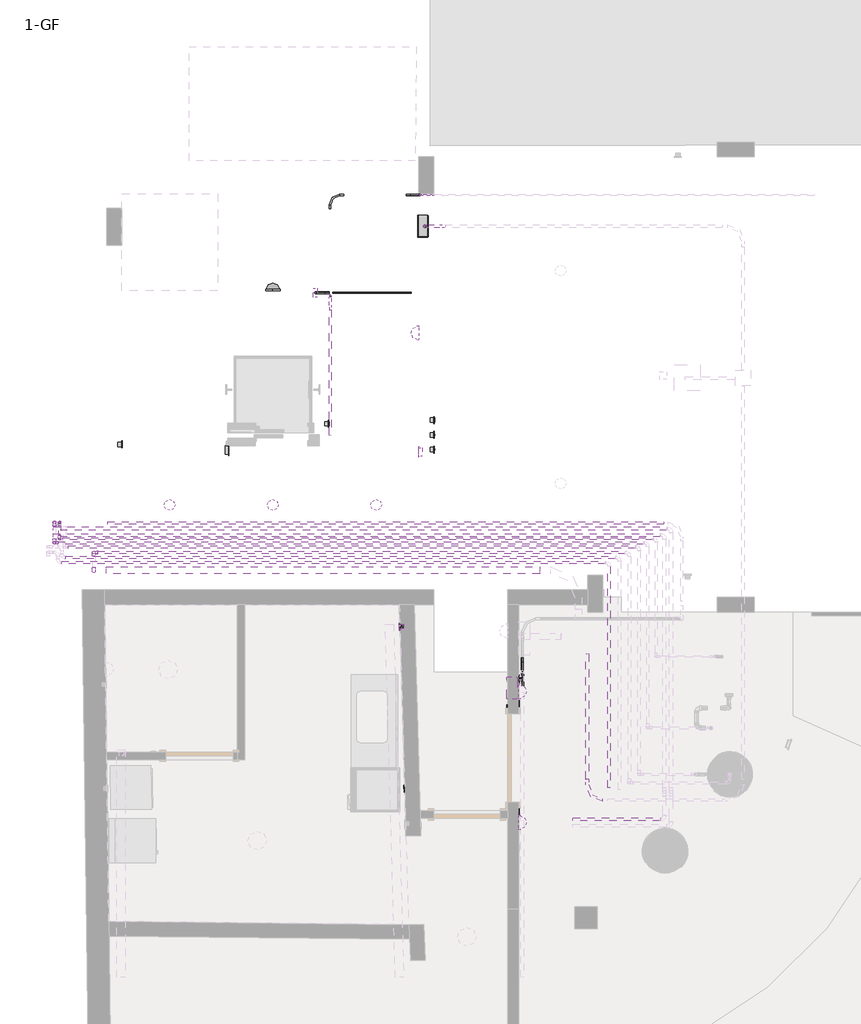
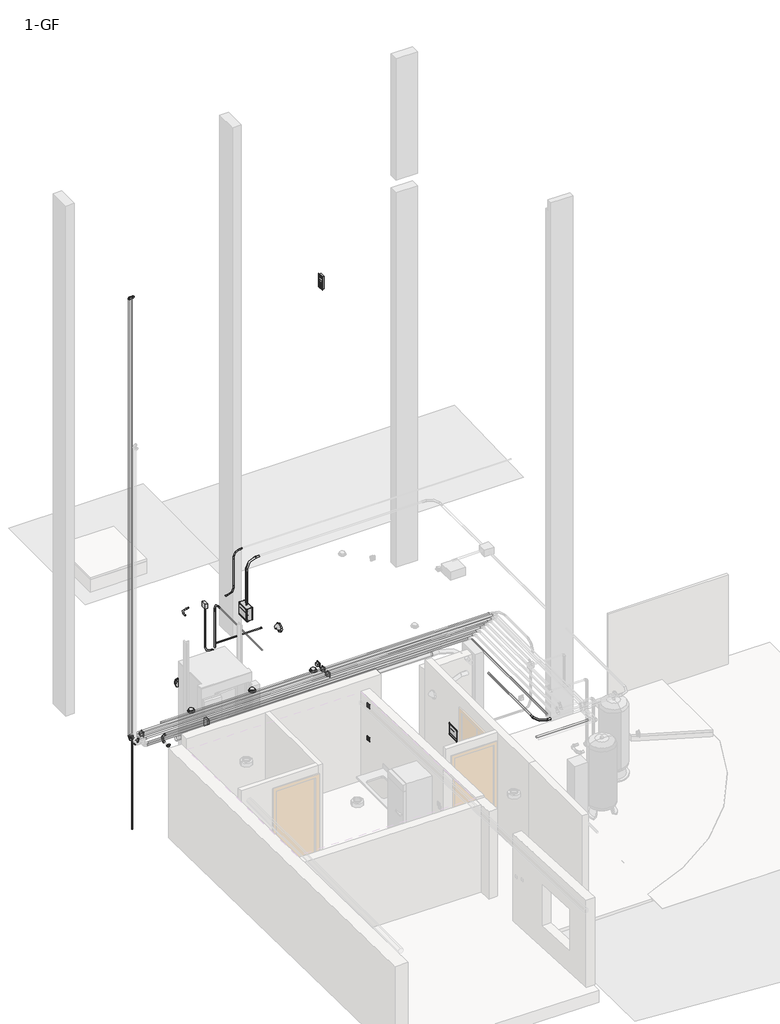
# One storey, part 3 of 5: 16 pipe segments, 10 pipe fittings, 9 cable carrier fittings, 9 cable carrier segments, 7 light fixtures, 7 proxies, 7 switching devices, 2 electric appliances.
"""IFC4 building model written with IfcOpenShell, lengths in millimetres."""

from ifc_helpers import new_model, si_unit, point, frame, frame_2d, origin, place, context, project, spatial, circle_curve, trimmed, segment, composite_curve, outline, extrude, transform, mapped, element, save
from components import distribution_board_12m_eee04b7b, m_telephone_terminal_board_lcp_f1e4d104, wall_mounted_socket_ups_wall_mounted_socket_ups_4524048d, m_conduit_elbow_steel_standard_5c2c710b, m_conduit_elbow_steel_standard_da78c8d7, m_conduit_elbow_steel_standard_971282f7, m_conduit_elbow_steel_standard_eedba290, m_conduit_elbow_without_fittings_emt_standard_0e6a189b, m_conduit_elbow_without_fittings_emt_standard_770008fc, m_conduit_junction_box_tee_aluminum_standard_c91b5ff9, communication_device_4de170aa, m_recessed_lamp_round_led_e6f06c98, m_recessed_lamp_round_led_ae0475c0, street_light_07_uk_wall_mounted_68d1d246, street_light_07_uk_wall_mounted_de2312fa, m_bend_pvc_sch_40_dwv_standard_b153bf5a, m_bend_pvc_sch_40_dwv_standard_be9000f5, m_bend_pvc_sch_40_dwv_standard_81456afd, m_tee_reducing_sanitary_pvc_sch_40_dwv_standard_7acfb5fe, switching_device_8f59fbb7, switching_device_ab05ab5c

model = new_model("IFC4")

# Units and contexts
model_context = context("Model", 3, world=origin())
ifc_project = project(units=[si_unit("LENGTHUNIT", "METRE", prefix="MILLI")], contexts=[model_context])

# Site, building, storey
site = spatial("IfcSite", under=ifc_project)
building = spatial("IfcBuilding", under=site)
storey = spatial("IfcBuildingStorey", under=building, Name="1-GF", Elevation=580.0)

# Proxies
placement = place(None, origin())
distribution_board_12m_shape = distribution_board_12m_eee04b7b(model_context)
element("IfcBuildingElementProxy", 1, Name="Distribution Board : 12M", ObjectType="Distribution Board : 12M", at=placement, inside=storey, context=model_context, shape_type="MappedRepresentation", body=[
    mapped(distribution_board_12m_shape, transform((502.5234079, 1804.4560655, 1780.0), x_axis=(0.0, -1.0, 0.0), y_axis=(1.0, 0.0, 0.0), z_axis=(0.0, 0.0, 1.0))),
])
element("IfcBuildingElementProxy", 2, Name="Distribution Board : 12M", ObjectType="Distribution Board : 12M", at=placement, inside=storey, context=model_context, shape_type="MappedRepresentation", body=[
    mapped(distribution_board_12m_shape, transform((-704.9765921, 8061.9560655, 1330.0), x_axis=(0.0, -1.0, 0.0), y_axis=(1.0, 0.0, 0.0), z_axis=(0.0, 0.0, 1.0))),
])
m_telephone_terminal_board_lcp_shape = m_telephone_terminal_board_lcp_f1e4d104(model_context)
element("IfcBuildingElementProxy", 3, Name="M_Telephone Terminal Board : LCP", ObjectType="M_Telephone Terminal Board : LCP", at=placement, inside=storey, context=model_context, shape_type="MappedRepresentation", body=[
    mapped(m_telephone_terminal_board_lcp_shape, transform((522.5234079, 1925.030978, 1780.0), x_axis=(0.0, 1.0, 0.0), y_axis=(0.0, 0.0, 1.0), z_axis=(1.0, 0.0, 0.0))),
])
wall_mounted_socket_ups_wall_mounted_socket_ups_shape = wall_mounted_socket_ups_wall_mounted_socket_ups_4524048d(model_context)
element("IfcBuildingElementProxy", 4, Name="WALL MOUNTED SOCKET : WALL MOUNTED SOCKET", ObjectType="WALL MOUNTED SOCKET : WALL MOUNTED SOCKET", at=placement, inside=storey, context=model_context, shape_type="MappedRepresentation", body=[
    mapped(wall_mounted_socket_ups_wall_mounted_socket_ups_shape, transform((-1085.3709249, 2635.426215, 1780.0), x_axis=(0.028460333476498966, -0.9995949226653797, 0.0), y_axis=(0.0, 0.0, 1.0), z_axis=(-0.9995949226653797, -0.028460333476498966, 0.0))),
])
element("IfcBuildingElementProxy", 5, Name="WALL MOUNTED SOCKET : WALL MOUNTED SOCKET", ObjectType="WALL MOUNTED SOCKET : WALL MOUNTED SOCKET", at=placement, inside=storey, context=model_context, shape_type="MappedRepresentation", body=[
    mapped(wall_mounted_socket_ups_wall_mounted_socket_ups_shape, transform((522.5234079, 1594.4560655, 1030.0), x_axis=(0.0, 1.0, 0.0), y_axis=(0.0, 0.0, 1.0), z_axis=(1.0, 0.0, 0.0))),
])
element("IfcBuildingElementProxy", 6, Name="WALL MOUNTED SOCKET : WALL MOUNTED SOCKET", ObjectType="WALL MOUNTED SOCKET : WALL MOUNTED SOCKET", at=placement, inside=storey, context=model_context, shape_type="MappedRepresentation", body=[
    mapped(wall_mounted_socket_ups_wall_mounted_socket_ups_shape, transform((-1022.8077223, 438.0570361, 1030.0), x_axis=(0.028460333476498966, -0.9995949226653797, 0.0), y_axis=(0.0, 0.0, 1.0), z_axis=(-0.9995949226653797, -0.028460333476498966, 0.0))),
])
element("IfcBuildingElementProxy", 7, Name="WALL MOUNTED SOCKET : WALL MOUNTED SOCKET", ObjectType="WALL MOUNTED SOCKET : WALL MOUNTED SOCKET", at=placement, inside=storey, context=model_context, shape_type="MappedRepresentation", body=[
    mapped(wall_mounted_socket_ups_wall_mounted_socket_ups_shape, transform((-1085.3709249, 2635.426215, 2580.0), x_axis=(0.028460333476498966, -0.9995949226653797, 0.0), y_axis=(0.0, 0.0, 1.0), z_axis=(-0.9995949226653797, -0.028460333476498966, 0.0))),
])

# Cable carrier fittings
m_conduit_elbow_steel_standard_shape = m_conduit_elbow_steel_standard_5c2c710b(model_context)
element("IfcCableCarrierFitting", 8, ObjectType="M_Conduit Elbow - Steel : Standard", at=placement, inside=storey, context=model_context, shape_type="MappedRepresentation", body=[
    mapped(m_conduit_elbow_steel_standard_shape, transform((-2232.4765921, 7159.7000558, 1530.0), x_axis=(0.0, 0.0, -1.0), y_axis=(1.0, 0.0, 0.0), z_axis=(0.0, -1.0, 0.0))),
])
element("IfcCableCarrierFitting", 9, ObjectType="M_Conduit Elbow - Steel : Standard", at=placement, inside=storey, context=model_context, shape_type="MappedRepresentation", body=[
    mapped(m_conduit_elbow_steel_standard_shape, transform((-2033.5640921, 8484.4560655, 1668.2898915), x_axis=(-0.9999999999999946, 0.0, -1.0475818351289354e-07), y_axis=(0.0, -0.9999999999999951, 1.0085922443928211e-07), z_axis=(-1.0475818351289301e-07, 1.0085922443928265e-07, 0.9999999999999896))),
])
m_conduit_elbow_steel_standard_2_shape = m_conduit_elbow_steel_standard_da78c8d7(model_context)
element("IfcCableCarrierFitting", 10, ObjectType="M_Conduit Elbow - Steel : Standard", at=placement, inside=storey, context=model_context, shape_type="MappedRepresentation", body=[
    mapped(m_conduit_elbow_steel_standard_2_shape, transform((-2028.5640921, 7120.5435655, 2682.4571376), x_axis=(0.0, 0.0, 1.0), y_axis=(0.0, -1.0, 0.0), z_axis=(1.0, 0.0, 0.0))),
])
m_conduit_elbow_steel_standard_3_shape = m_conduit_elbow_steel_standard_971282f7(model_context)
element("IfcCableCarrierFitting", 11, ObjectType="M_Conduit Elbow - Steel : Standard", at=placement, inside=storey, context=model_context, shape_type="MappedRepresentation", body=[
    mapped(m_conduit_elbow_steel_standard_3_shape, transform((-808.6146294, 8484.4560654, 2682.4678157), x_axis=(-0.999999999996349, 0.0, -2.7022281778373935e-06), y_axis=(2.7022281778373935e-06, 0.0, -0.999999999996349), z_axis=(0.0, -1.0, 0.0))),
])
m_conduit_elbow_steel_standard_4_shape = m_conduit_elbow_steel_standard_eedba290(model_context)
element("IfcCableCarrierFitting", 12, ObjectType="M_Conduit Elbow - Steel : Standard", at=placement, inside=storey, context=model_context, shape_type="MappedRepresentation", body=[
    mapped(m_conduit_elbow_steel_standard_4_shape, transform((-808.6146294, 8484.4560654, 1668.2900198), x_axis=(0.0, 0.0, -1.0), y_axis=(-1.0, 0.0, 0.0), z_axis=(0.0, 1.0, 0.0))),
])
m_conduit_elbow_without_fittings_emt_standard_shape = m_conduit_elbow_without_fittings_emt_standard_0e6a189b(model_context)
element("IfcCableCarrierFitting", 13, ObjectType="M_Conduit Elbow - without Fittings - EMT : Standard", at=placement, inside=storey, context=model_context, shape_type="MappedRepresentation", body=[
    mapped(m_conduit_elbow_without_fittings_emt_standard_shape, transform((1450.9897451, 287.2055615, 2703.1), x_axis=(0.0, -1.0, 0.0), y_axis=(1.0, 0.0, 0.0), z_axis=(0.0, 0.0, 1.0))),
])
element("IfcCableCarrierFitting", 14, ObjectType="M_Conduit Elbow - without Fittings - EMT : Standard", at=placement, inside=storey, context=model_context, shape_type="MappedRepresentation", body=[
    mapped(m_conduit_elbow_without_fittings_emt_standard_shape, transform((-752.4765921, 8061.6620874, 2703.1), x_axis=(-1.0, 0.0, 0.0), y_axis=(0.0, 0.0, -1.0), z_axis=(0.0, -1.0, 0.0))),
])
m_conduit_elbow_without_fittings_emt_standard_2_shape = m_conduit_elbow_without_fittings_emt_standard_770008fc(model_context)
element("IfcCableCarrierFitting", 15, ObjectType="M_Conduit Elbow - without Fittings - EMT : Standard", at=placement, inside=storey, context=model_context, shape_type="MappedRepresentation", body=[
    mapped(m_conduit_elbow_without_fittings_emt_standard_2_shape, transform((572.5468157, 1950.6, 1145.0), x_axis=(0.0, 0.0, -1.0), y_axis=(0.0, 1.0, 0.0), z_axis=(1.0, 0.0, 0.0))),
])
m_conduit_junction_box_tee_aluminum_standard_shape = m_conduit_junction_box_tee_aluminum_standard_c91b5ff9(model_context)
element("IfcCableCarrierFitting", 16, ObjectType="M_Conduit Junction Box - Tee - Aluminum : Standard", at=placement, inside=storey, context=model_context, shape_type="MappedRepresentation", body=[
    mapped(m_conduit_junction_box_tee_aluminum_standard_shape, transform((-2232.4765921, 7159.7000558, 2682.3951846), x_axis=(0.0, 0.0, 1.0), y_axis=(0.0, -1.0, 0.0), z_axis=(1.0, 0.0, 0.0))),
])

# Cable carrier segments
element("IfcCableCarrierSegment", 17, ObjectType="Electrical Metallic Tubing (EMT)", at=placement, inside=storey, context=model_context, shape_type="SweptSolid", body=[
    extrude(outline(composite_curve([segment(trimmed(circle_curve(frame_2d((3399.4560655, 2703.05)), 44.45), [point((3443.9060655, 2703.05))], [point((3399.4560655, 2658.6))], False, "CARTESIAN"), True, "CONTINUOUS"), segment(trimmed(circle_curve(frame_2d((3399.4560655, 2703.05)), 44.45), [point((3399.4560655, 2658.6))], [point((3355.0060655, 2703.05))], False, "CARTESIAN"), True, "CONTINUOUS"), segment(trimmed(circle_curve(frame_2d((3399.4560655, 2703.05)), 44.45), [point((3355.0060655, 2703.05))], [point((3399.4560655, 2747.5))], False, "CARTESIAN"), True, "CONTINUOUS"), segment(trimmed(circle_curve(frame_2d((3399.4560655, 2703.05)), 44.45), [point((3399.4560655, 2747.5))], [point((3443.9060655, 2703.05))], False, "CARTESIAN"), True, "CONTINUOUS")], self_intersect=False)), frame((-5067.4765921, 0.0, 0.0), z_axis=(1.0, 0.0, 0.0), x_axis=(0.0, 1.0, 0.0)), (0.0, 0.0, 1.0), 5872.95),
])
element("IfcCableCarrierSegment", 18, ObjectType="Electrical Metallic Tubing (EMT)", at=placement, inside=storey, context=model_context, shape_type="SweptSolid", body=[
    extrude(outline(composite_curve([segment(trimmed(circle_curve(frame_2d((2703.1, 1450.9897451)), 19.175), [point((2703.1, 1470.1647451))], [point((2722.275, 1450.9897451))], False, "CARTESIAN"), True, "CONTINUOUS"), segment(trimmed(circle_curve(frame_2d((2703.1, 1450.9897451)), 19.175), [point((2722.275, 1450.9897451))], [point((2703.1, 1431.8147451))], False, "CARTESIAN"), True, "CONTINUOUS"), segment(trimmed(circle_curve(frame_2d((2703.1, 1450.9897451)), 19.175), [point((2703.1, 1431.8147451))], [point((2683.925, 1450.9897451))], False, "CARTESIAN"), True, "CONTINUOUS"), segment(trimmed(circle_curve(frame_2d((2703.1, 1450.9897451)), 19.175), [point((2683.925, 1450.9897451))], [point((2703.1, 1470.1647451))], False, "CARTESIAN"), True, "CONTINUOUS")], self_intersect=False)), frame((0.0, 566.7355615, 0.0), z_axis=(0.0, 1.0, 0.0), x_axis=(0.0, 0.0, 1.0)), (0.0, 0.0, 1.0), 1700.3996531),
])
element("IfcCableCarrierSegment", 19, ObjectType="Electrical Metallic Tubing (EMT)", at=placement, inside=storey, context=model_context, shape_type="SweptSolid", body=[
    extrude(outline(composite_curve([segment(trimmed(circle_curve(frame_2d((-752.4765921, 8061.6620874)), 19.175), [point((-733.3015921, 8061.6620874))], [point((-752.4765921, 8042.4870874))], False, "CARTESIAN"), True, "CONTINUOUS"), segment(trimmed(circle_curve(frame_2d((-752.4765921, 8061.6620874)), 19.175), [point((-752.4765921, 8042.4870874))], [point((-771.6515921, 8061.6620874))], False, "CARTESIAN"), True, "CONTINUOUS"), segment(trimmed(circle_curve(frame_2d((-752.4765921, 8061.6620874)), 19.175), [point((-771.6515921, 8061.6620874))], [point((-752.4765921, 8080.8370874))], False, "CARTESIAN"), True, "CONTINUOUS"), segment(trimmed(circle_curve(frame_2d((-752.4765921, 8061.6620874)), 19.175), [point((-752.4765921, 8080.8370874))], [point((-733.3015921, 8061.6620874))], False, "CARTESIAN"), True, "CONTINUOUS")], self_intersect=False)), frame((0.0, 0.0, 1593.1), z_axis=(0.0, 0.0, 1.0), x_axis=(1.0, 0.0, 0.0)), (0.0, 0.0, 1.0), 830.47),
])
element("IfcCableCarrierSegment", 20, ObjectType="Electrical Metallic Tubing (EMT)", at=placement, inside=storey, context=model_context, shape_type="SweptSolid", body=[
    extrude(outline(composite_curve([segment(trimmed(circle_curve(frame_2d((0.0, -8.965)), 8.965), [point((-8.965, -8.965))], [point((0.0, 0.0))], False, "CARTESIAN"), True, "CONTINUOUS"), segment(trimmed(circle_curve(frame_2d((0.0, -8.965)), 8.965), [point((0.0, 0.0))], [point((8.965, -8.965))], False, "CARTESIAN"), True, "CONTINUOUS"), segment(trimmed(circle_curve(frame_2d((0.0, -8.965)), 8.965), [point((8.965, -8.965))], [point((0.0, -17.93))], False, "CARTESIAN"), True, "CONTINUOUS"), segment(trimmed(circle_curve(frame_2d((0.0, -8.965)), 8.965), [point((0.0, -17.93))], [point((-8.965, -8.965))], False, "CARTESIAN"), True, "CONTINUOUS")], self_intersect=False)), frame((-1997.1784156, 7159.7000558, 1662.0231875), z_axis=(0.9999999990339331, 0.0, 4.395604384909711e-05), x_axis=(0.0, -1.0, 0.0)), (0.0, 0.0, 1.0), 1064.9848601),
])
element("IfcCableCarrierSegment", 21, ObjectType="Low Current", at=placement, inside=storey, context=model_context, shape_type="SweptSolid", body=[
    extrude(outline(composite_curve([segment(trimmed(circle_curve(frame_2d((4039.2572999, 2710.0)), 14.77), [point((4054.0272999, 2710.0))], [point((4039.2572999, 2695.23))], False, "CARTESIAN"), True, "CONTINUOUS"), segment(trimmed(circle_curve(frame_2d((4039.2572999, 2710.0)), 14.77), [point((4039.2572999, 2695.23))], [point((4024.4872999, 2710.0))], False, "CARTESIAN"), True, "CONTINUOUS"), segment(trimmed(circle_curve(frame_2d((4039.2572999, 2710.0)), 14.77), [point((4024.4872999, 2710.0))], [point((4039.2572999, 2724.77))], False, "CARTESIAN"), True, "CONTINUOUS"), segment(trimmed(circle_curve(frame_2d((4039.2572999, 2710.0)), 14.77), [point((4039.2572999, 2724.77))], [point((4054.0272999, 2710.0))], False, "CARTESIAN"), True, "CONTINUOUS")], self_intersect=False)), frame((-5047.4765921, 0.0, 0.0), z_axis=(1.0, 0.0, 0.0), x_axis=(0.0, 1.0, 0.0)), (0.0, 0.0, 1.0), 7538.7),
])
element("IfcCableCarrierSegment", 22, ObjectType="Low Current", at=placement, inside=storey, context=model_context, shape_type="SweptSolid", body=[
    extrude(outline(composite_curve([segment(trimmed(circle_curve(frame_2d((-2232.4765921, 7159.7000558)), 11.71), [point((-2220.7665921, 7159.7000558))], [point((-2232.4765921, 7147.9900558))], False, "CARTESIAN"), True, "CONTINUOUS"), segment(trimmed(circle_curve(frame_2d((-2232.4765921, 7159.7000558)), 11.71), [point((-2232.4765921, 7147.9900558))], [point((-2244.1865921, 7159.7000558))], False, "CARTESIAN"), True, "CONTINUOUS"), segment(trimmed(circle_curve(frame_2d((-2232.4765921, 7159.7000558)), 11.71), [point((-2244.1865921, 7159.7000558))], [point((-2232.4765921, 7171.4100558))], False, "CARTESIAN"), True, "CONTINUOUS"), segment(trimmed(circle_curve(frame_2d((-2232.4765921, 7159.7000558)), 11.71), [point((-2232.4765921, 7171.4100558))], [point((-2220.7665921, 7159.7000558))], False, "CARTESIAN"), True, "CONTINUOUS")], self_intersect=False)), frame((0.0, 0.0, 1718.9125), z_axis=(0.0, 0.0, 1.0), x_axis=(1.0, 0.0, 0.0)), (0.0, 0.0, 1.0), 905.4826846),
])
element("IfcCableCarrierSegment", 23, ObjectType="Low Current", at=placement, inside=storey, context=model_context, shape_type="SweptSolid", body=[
    extrude(outline(composite_curve([segment(trimmed(circle_curve(frame_2d((0.0, -11.71)), 11.71), [point((0.0, -23.42))], [point((-11.71, -11.71))], False, "CARTESIAN"), True, "CONTINUOUS"), segment(trimmed(circle_curve(frame_2d((0.0, -11.71)), 11.71), [point((-11.71, -11.71))], [point((0.0, 0.0))], False, "CARTESIAN"), True, "CONTINUOUS"), segment(trimmed(circle_curve(frame_2d((0.0, -11.71)), 11.71), [point((0.0, 0.0))], [point((11.7099999, -11.71))], False, "CARTESIAN"), True, "CONTINUOUS"), segment(trimmed(circle_curve(frame_2d((0.0, -11.71)), 11.71), [point((11.7099999, -11.71))], [point((0.0, -23.42))], False, "CARTESIAN"), True, "CONTINUOUS")], self_intersect=False)), frame((-2040.2740921, 6931.6363193, 2682.46467), z_axis=(0.0, -0.9999999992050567, 3.987338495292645e-05), x_axis=(0.0, 3.987338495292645e-05, 0.9999999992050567)), (0.0, 0.0, 1.0), 1703.0237609),
])
element("IfcCableCarrierSegment", 24, ObjectType="Low Current", at=placement, inside=storey, context=model_context, shape_type="SweptSolid", body=[
    extrude(outline(composite_curve([segment(trimmed(circle_curve(frame_2d((-2028.5640921, 7120.5435655)), 11.71), [point((-2016.8540921, 7120.5435655))], [point((-2028.5640921, 7108.8335655))], False, "CARTESIAN"), True, "CONTINUOUS"), segment(trimmed(circle_curve(frame_2d((-2028.5640921, 7120.5435655)), 11.71), [point((-2028.5640921, 7108.8335655))], [point((-2040.2740921, 7120.5435655))], False, "CARTESIAN"), True, "CONTINUOUS"), segment(trimmed(circle_curve(frame_2d((-2028.5640921, 7120.5435655)), 11.71), [point((-2040.2740921, 7120.5435655))], [point((-2028.5640921, 7132.2535655))], False, "CARTESIAN"), True, "CONTINUOUS"), segment(trimmed(circle_curve(frame_2d((-2028.5640921, 7120.5435655)), 11.71), [point((-2028.5640921, 7132.2535655))], [point((-2016.8540921, 7120.5435655))], False, "CARTESIAN"), True, "CONTINUOUS")], self_intersect=False)), frame((0.0, 0.0, 1606.5), z_axis=(0.0, 0.0, 1.0), x_axis=(1.0, 0.0, 0.0)), (0.0, 0.0, 1.0), 887.0498913),
])
element("IfcCableCarrierSegment", 25, ObjectType="Low Current", at=placement, inside=storey, context=model_context, shape_type="SweptSolid", body=[
    extrude(outline(composite_curve([segment(trimmed(circle_curve(frame_2d((-808.6146294, 8484.4560654)), 11.71), [point((-796.9046294, 8484.4560654))], [point((-808.6146294, 8472.7460654))], False, "CARTESIAN"), True, "CONTINUOUS"), segment(trimmed(circle_curve(frame_2d((-808.6146294, 8484.4560654)), 11.71), [point((-808.6146294, 8472.7460654))], [point((-820.3246294, 8484.4560654))], False, "CARTESIAN"), True, "CONTINUOUS"), segment(trimmed(circle_curve(frame_2d((-808.6146294, 8484.4560654)), 11.71), [point((-820.3246294, 8484.4560654))], [point((-808.6146294, 8496.1660654))], False, "CARTESIAN"), True, "CONTINUOUS"), segment(trimmed(circle_curve(frame_2d((-808.6146294, 8484.4560654)), 11.71), [point((-808.6146294, 8496.1660654))], [point((-796.9046294, 8484.4560654))], False, "CARTESIAN"), True, "CONTINUOUS")], self_intersect=False)), frame((0.0, 0.0, 1857.202506), z_axis=(0.0, 0.0, 1.0), x_axis=(1.0, 0.0, 0.0)), (0.0, 0.0, 1.0), 636.3531658),
])

# Electric appliances
communication_device_shape = communication_device_4de170aa(model_context)
element("IfcElectricAppliance", 26, ObjectType="E_Communication Device_Intercom_F_MEPcontent_Recessed_Generic : Communication Device", at=placement, inside=storey, context=model_context, shape_type="MappedRepresentation", body=[
    mapped(communication_device_shape, transform((-827.4765921, 5001.6620874, 11335.5), x_axis=(0.0, -1.0, 0.0), y_axis=(0.0, 0.0, 1.0), z_axis=(-1.0, 0.0, 0.0))),
])
element("IfcElectricAppliance", 27, ObjectType="E_Communication Device_Intercom_F_MEPcontent_Recessed_Generic : Communication Device", at=placement, inside=storey, context=model_context, shape_type="MappedRepresentation", body=[
    mapped(communication_device_shape, transform((-3407.4765921, 5027.9900558, 1480.0), x_axis=(0.0, 1.0, 0.0), y_axis=(0.0, 0.0, 1.0), z_axis=(1.0, 0.0, 0.0))),
])

# Light fixtures
m_recessed_lamp_round_led_shape = m_recessed_lamp_round_led_e6f06c98(model_context)
element("IfcLightFixture", 28, ObjectType="M_Recessed Lamp - Round - LED : 100mm Trimless Downlight", at=placement, inside=storey, context=model_context, shape_type="MappedRepresentation", body=[
    mapped(m_recessed_lamp_round_led_shape, transform((-2807.4765921, 4284.4560655, 2550.0), x_axis=(1.0, 0.0, 0.0), y_axis=(0.0, -1.0, 0.0), z_axis=(0.0, 0.0, -1.0))),
])
element("IfcLightFixture", 29, ObjectType="M_Recessed Lamp - Round - LED : 100mm Trimless Downlight", at=placement, inside=storey, context=model_context, shape_type="MappedRepresentation", body=[
    mapped(m_recessed_lamp_round_led_shape, transform((-4207.4765921, 4284.4560655, 2550.0), x_axis=(1.0, 0.0, 0.0), y_axis=(0.0, -1.0, 0.0), z_axis=(0.0, 0.0, -1.0))),
])
m_recessed_lamp_round_led_2_shape = m_recessed_lamp_round_led_ae0475c0(model_context)
element("IfcLightFixture", 30, ObjectType="M_Recessed Lamp - Round - LED : 100mm Trimless Downlight", at=placement, inside=storey, context=model_context, shape_type="MappedRepresentation", body=[
    mapped(m_recessed_lamp_round_led_2_shape, transform((-1407.4765921, 4284.4560655, 2550.0), x_axis=(-1.0, 0.0, 0.0), y_axis=(0.0, 1.0, 0.0), z_axis=(0.0, 0.0, -1.0))),
])
street_light_07_uk_wall_mounted_shape = street_light_07_uk_wall_mounted_68d1d246(model_context)
element("IfcLightFixture", 31, ObjectType="Street Light 07 (UK) : Wall Mounted", at=placement, inside=storey, context=model_context, shape_type="MappedRepresentation", body=[
    mapped(street_light_07_uk_wall_mounted_shape, transform((-727.4765921, 6489.4560655, -298.6607917), x_axis=(0.0, 1.0, 0.0), y_axis=(-1.0, 0.0, 0.0), z_axis=(0.0, 0.0, 1.0))),
])
street_light_07_uk_wall_mounted_2_shape = street_light_07_uk_wall_mounted_de2312fa(model_context)
element("IfcLightFixture", 32, ObjectType="Street Light 07 (UK) : Wall Mounted", at=placement, inside=storey, context=model_context, shape_type="MappedRepresentation", body=[
    mapped(street_light_07_uk_wall_mounted_2_shape, transform((-2932.4765921, 7109.4560655, -1298.6607917), x_axis=(1.0, 0.0, 0.0), y_axis=(0.0, 1.0, 0.0), z_axis=(0.0, 0.0, 1.0))),
])
element("IfcLightFixture", 33, ObjectType="Street Light 07 (UK) : Wall Mounted", at=placement, inside=storey, context=model_context, shape_type="MappedRepresentation", body=[
    mapped(street_light_07_uk_wall_mounted_2_shape, transform((447.5234079, 104.4560655, 101.3392083), x_axis=(0.0, -1.0, 0.0), y_axis=(1.0, 0.0, 0.0), z_axis=(0.0, 0.0, 1.0))),
])
element("IfcLightFixture", 34, ObjectType="Street Light 07 (UK) : Wall Mounted", at=placement, inside=storey, context=model_context, shape_type="MappedRepresentation", body=[
    mapped(street_light_07_uk_wall_mounted_2_shape, transform((447.5234079, 1879.6560655, 101.3392083), x_axis=(0.0, -1.0, 0.0), y_axis=(1.0, 0.0, 0.0), z_axis=(0.0, 0.0, 1.0))),
])

# Pipe fittings
m_bend_pvc_sch_40_dwv_standard_shape = m_bend_pvc_sch_40_dwv_standard_b153bf5a(model_context)
element("IfcPipeFitting", 35, ObjectType="M_Bend - PVC - Sch 40 - DWV : Standard", at=placement, inside=storey, context=model_context, shape_type="MappedRepresentation", body=[
    mapped(m_bend_pvc_sch_40_dwv_standard_shape, transform((-5767.4765921, 4048.5526358, 2580.0), x_axis=(0.0, 1.0, 0.0), y_axis=(0.0, 0.0, 1.0), z_axis=(1.0, 0.0, 0.0))),
])
element("IfcPipeFitting", 36, ObjectType="M_Bend - PVC - Sch 40 - DWV : Standard", at=placement, inside=storey, context=model_context, shape_type="MappedRepresentation", body=[
    mapped(m_bend_pvc_sch_40_dwv_standard_shape, transform((-5767.4765921, 4048.5526358, 13275.0), x_axis=(0.0, 0.0, 1.0), y_axis=(0.0, -1.0, 0.0), z_axis=(1.0, 0.0, 0.0))),
])
element("IfcPipeFitting", 37, ObjectType="M_Bend - PVC - Sch 40 - DWV : Standard", at=placement, inside=storey, context=model_context, shape_type="MappedRepresentation", body=[
    mapped(m_bend_pvc_sch_40_dwv_standard_shape, transform((-5234.2694836, 3639.4560655, 2700.0), x_axis=(-1.0, 0.0, 0.0), y_axis=(0.0, 0.0, -1.0), z_axis=(0.0, -1.0, 0.0))),
])
element("IfcPipeFitting", 38, ObjectType="M_Bend - PVC - Sch 40 - DWV : Standard", at=placement, inside=storey, context=model_context, shape_type="MappedRepresentation", body=[
    mapped(m_bend_pvc_sch_40_dwv_standard_shape, transform((-5234.2694836, 3639.4560655, 2580.0), x_axis=(0.0, 0.0, -1.0), y_axis=(0.0, -1.0, 0.0), z_axis=(-1.0, 0.0, 0.0))),
])
element("IfcPipeFitting", 39, ObjectType="M_Bend - PVC - Sch 40 - DWV : Standard", at=placement, inside=storey, context=model_context, shape_type="MappedRepresentation", body=[
    mapped(m_bend_pvc_sch_40_dwv_standard_shape, transform((-5234.2694836, 3387.0285321, 2580.0), x_axis=(0.0, -1.0, 0.0), y_axis=(0.0, 0.0, 1.0), z_axis=(-1.0, 0.0, 0.0))),
])
element("IfcPipeFitting", 40, ObjectType="M_Bend - PVC - Sch 40 - DWV : Standard", at=placement, inside=storey, context=model_context, shape_type="MappedRepresentation", body=[
    mapped(m_bend_pvc_sch_40_dwv_standard_shape, transform((-5767.4765921, 3771.7396194, 2700.0), x_axis=(-1.0, 0.0, 0.0), y_axis=(0.0, 0.0, -1.0), z_axis=(0.0, -1.0, 0.0))),
])
element("IfcPipeFitting", 41, ObjectType="M_Bend - PVC - Sch 40 - DWV : Standard", at=placement, inside=storey, context=model_context, shape_type="MappedRepresentation", body=[
    mapped(m_bend_pvc_sch_40_dwv_standard_shape, transform((-5767.4765921, 3771.7396194, 2580.0), x_axis=(0.0, -1.0, 0.0), y_axis=(0.0, 0.0, 1.0), z_axis=(-1.0, 0.0, 0.0))),
])
m_bend_pvc_sch_40_dwv_standard_2_shape = m_bend_pvc_sch_40_dwv_standard_be9000f5(model_context)
element("IfcPipeFitting", 42, ObjectType="M_Bend - PVC - Sch 40 - DWV : Standard", at=placement, inside=storey, context=model_context, shape_type="MappedRepresentation", body=[
    mapped(m_bend_pvc_sch_40_dwv_standard_2_shape, transform((-5698.6248234, 3823.9412775, 2580.0), x_axis=(0.0, 0.0, -1.0), y_axis=(0.0, 1.0, 0.0), z_axis=(1.0, 0.0, 0.0))),
])
m_bend_pvc_sch_40_dwv_standard_3_shape = m_bend_pvc_sch_40_dwv_standard_81456afd(model_context)
element("IfcPipeFitting", 43, ObjectType="M_Bend - PVC - Sch 40 - DWV : Standard", at=placement, inside=storey, context=model_context, shape_type="MappedRepresentation", body=[
    mapped(m_bend_pvc_sch_40_dwv_standard_3_shape, transform((-5698.6248234, 4046.4586118, 13275.0031492), x_axis=(0.0, 0.0, 1.0), y_axis=(0.0, -1.0, 0.0), z_axis=(1.0, 0.0, 0.0))),
])
m_tee_reducing_sanitary_pvc_sch_40_dwv_standard_shape = m_tee_reducing_sanitary_pvc_sch_40_dwv_standard_7acfb5fe(model_context)
element("IfcPipeFitting", 44, ObjectType="M_Tee Reducing Sanitary - PVC - Sch 40 - DWV : Standard", at=placement, inside=storey, context=model_context, shape_type="MappedRepresentation", body=[
    mapped(m_tee_reducing_sanitary_pvc_sch_40_dwv_standard_shape, transform((-5698.6248234, 4046.4442776, 2580.0), x_axis=(0.0, 1.3454332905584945e-06, 0.999999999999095), y_axis=(0.0, 0.999999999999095, -1.3454332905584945e-06), z_axis=(-1.0, 0.0, 0.0))),
])

# Pipe segments
element("IfcPipeSegment", 45, ObjectType="PVC - DWV", at=placement, inside=storey, context=model_context, shape_type="SweptSolid", body=[
    extrude(outline(composite_curve([segment(trimmed(circle_curve(frame_2d((3714.4560655, 2700.0)), 16.7005), [point((3731.1565655, 2700.0))], [point((3714.4560655, 2683.2995))], False, "CARTESIAN"), True, "CONTINUOUS"), segment(trimmed(circle_curve(frame_2d((3714.4560655, 2700.0)), 16.7005), [point((3714.4560655, 2683.2995))], [point((3697.7555655, 2700.0))], False, "CARTESIAN"), True, "CONTINUOUS"), segment(trimmed(circle_curve(frame_2d((3714.4560655, 2700.0)), 16.7005), [point((3697.7555655, 2700.0))], [point((3714.4560655, 2716.7005))], False, "CARTESIAN"), True, "CONTINUOUS"), segment(trimmed(circle_curve(frame_2d((3714.4560655, 2700.0)), 16.7005), [point((3714.4560655, 2716.7005))], [point((3731.1565655, 2700.0))], False, "CARTESIAN"), True, "CONTINUOUS")], self_intersect=False)), frame((-5577.1589921, 0.0, 0.0), z_axis=(1.0, 0.0, 0.0), x_axis=(0.0, 1.0, 0.0)), (0.0, 0.0, 1.0), 7680.5795246),
])
element("IfcPipeSegment", 46, ObjectType="PVC - DWV", at=placement, inside=storey, context=model_context, shape_type="SweptSolid", body=[
    extrude(outline(composite_curve([segment(trimmed(circle_curve(frame_2d((3639.4560655, 2700.0)), 16.7005), [point((3622.7555655, 2700.0))], [point((3639.4560655, 2716.7005))], False, "CARTESIAN"), True, "CONTINUOUS"), segment(trimmed(circle_curve(frame_2d((3639.4560655, 2700.0)), 16.7005), [point((3639.4560655, 2716.7005))], [point((3656.1565655, 2700.0))], False, "CARTESIAN"), True, "CONTINUOUS"), segment(trimmed(circle_curve(frame_2d((3639.4560655, 2700.0)), 16.7005), [point((3656.1565655, 2700.0))], [point((3639.4560655, 2683.2995))], False, "CARTESIAN"), True, "CONTINUOUS"), segment(trimmed(circle_curve(frame_2d((3639.4560655, 2700.0)), 16.7005), [point((3639.4560655, 2683.2995))], [point((3622.7555655, 2700.0))], False, "CARTESIAN"), True, "CONTINUOUS")], self_intersect=False)), frame((-5181.6554211, 0.0, 0.0), z_axis=(1.0, 0.0, 0.0), x_axis=(0.0, 1.0, 0.0)), (0.0, 0.0, 1.0), 7151.213991),
])
element("IfcPipeSegment", 47, ObjectType="PVC - DWV", at=placement, inside=storey, context=model_context, shape_type="SweptSolid", body=[
    extrude(outline(composite_curve([segment(trimmed(circle_curve(frame_2d((3823.9412775, 2700.0)), 13.335), [point((3837.2762775, 2700.0))], [point((3823.9412775, 2686.665))], False, "CARTESIAN"), True, "CONTINUOUS"), segment(trimmed(circle_curve(frame_2d((3823.9412775, 2700.0)), 13.335), [point((3823.9412775, 2686.665))], [point((3810.6062775, 2700.0))], False, "CARTESIAN"), True, "CONTINUOUS"), segment(trimmed(circle_curve(frame_2d((3823.9412775, 2700.0)), 13.335), [point((3810.6062775, 2700.0))], [point((3823.9412775, 2713.335))], False, "CARTESIAN"), True, "CONTINUOUS"), segment(trimmed(circle_curve(frame_2d((3823.9412775, 2700.0)), 13.335), [point((3823.9412775, 2713.335))], [point((3837.2762775, 2700.0))], False, "CARTESIAN"), True, "CONTINUOUS")], self_intersect=False)), frame((-5651.8107609, 0.0, 0.0), z_axis=(1.0, 0.0, 0.0), x_axis=(0.0, 1.0, 0.0)), (0.0, 0.0, 1.0), 7991.3820689),
])
element("IfcPipeSegment", 48, ObjectType="PVC - DWV", at=placement, inside=storey, context=model_context, shape_type="SweptSolid", body=[
    extrude(outline(composite_curve([segment(trimmed(circle_curve(frame_2d((3771.7396194, 2700.0)), 16.7005), [point((3788.4401194, 2700.0))], [point((3771.7396194, 2683.2995))], False, "CARTESIAN"), True, "CONTINUOUS"), segment(trimmed(circle_curve(frame_2d((3771.7396194, 2700.0)), 16.7005), [point((3771.7396194, 2683.2995))], [point((3755.0391194, 2700.0))], False, "CARTESIAN"), True, "CONTINUOUS"), segment(trimmed(circle_curve(frame_2d((3771.7396194, 2700.0)), 16.7005), [point((3755.0391194, 2700.0))], [point((3771.7396194, 2716.7005))], False, "CARTESIAN"), True, "CONTINUOUS"), segment(trimmed(circle_curve(frame_2d((3771.7396194, 2700.0)), 16.7005), [point((3771.7396194, 2716.7005))], [point((3788.4401194, 2700.0))], False, "CARTESIAN"), True, "CONTINUOUS")], self_intersect=False)), frame((-5714.8625296, 0.0, 0.0), z_axis=(1.0, 0.0, 0.0), x_axis=(0.0, 1.0, 0.0)), (0.0, 0.0, 1.0), 7934.771875),
])
element("IfcPipeSegment", 49, ObjectType="PVC - DWV", at=placement, inside=storey, context=model_context, shape_type="SweptSolid", body=[
    extrude(outline(composite_curve([segment(trimmed(circle_curve(frame_2d((-5767.4765921, 4048.5526358)), 16.7005), [point((-5784.1770921, 4048.5526358))], [point((-5767.4765921, 4065.2531358))], False, "CARTESIAN"), True, "CONTINUOUS"), segment(trimmed(circle_curve(frame_2d((-5767.4765921, 4048.5526358)), 16.7005), [point((-5767.4765921, 4065.2531358))], [point((-5750.7760921, 4048.5526358))], False, "CARTESIAN"), True, "CONTINUOUS"), segment(trimmed(circle_curve(frame_2d((-5767.4765921, 4048.5526358)), 16.7005), [point((-5750.7760921, 4048.5526358))], [point((-5767.4765921, 4031.8521358))], False, "CARTESIAN"), True, "CONTINUOUS"), segment(trimmed(circle_curve(frame_2d((-5767.4765921, 4048.5526358)), 16.7005), [point((-5767.4765921, 4031.8521358))], [point((-5784.1770921, 4048.5526358))], False, "CARTESIAN"), True, "CONTINUOUS")], self_intersect=False)), frame((0.0, 0.0, 2632.6140625), z_axis=(0.0, 0.0, 1.0), x_axis=(1.0, 0.0, 0.0)), (0.0, 0.0, 1.0), 10589.771875),
])
element("IfcPipeSegment", 50, ObjectType="PVC - DWV", at=placement, inside=storey, context=model_context, shape_type="SweptSolid", body=[
    extrude(outline(composite_curve([segment(trimmed(circle_curve(frame_2d((0.0, 13.335)), 13.335), [point((-13.335, 13.335))], [point((0.0, 26.67))], False, "CARTESIAN"), True, "CONTINUOUS"), segment(trimmed(circle_curve(frame_2d((0.0, 13.335)), 13.335), [point((0.0, 26.67))], [point((13.335, 13.335))], False, "CARTESIAN"), True, "CONTINUOUS"), segment(trimmed(circle_curve(frame_2d((0.0, 13.335)), 13.335), [point((13.335, 13.335))], [point((0.0, 0.0))], False, "CARTESIAN"), True, "CONTINUOUS"), segment(trimmed(circle_curve(frame_2d((0.0, 13.335)), 13.335), [point((0.0, 0.0))], [point((-13.335, 13.335))], False, "CARTESIAN"), True, "CONTINUOUS")], self_intersect=False)), frame((-5698.6248234, 4033.1093132, 2606.4872555), z_axis=(0.0, 1.3461679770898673e-06, 0.999999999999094), x_axis=(1.0, 0.0, 0.0)), (0.0, 0.0, 1.0), 10621.7018492),
])
element("IfcPipeSegment", 51, ObjectType="PVC - DWV", at=placement, inside=storey, context=model_context, shape_type="SweptSolid", body=[
    extrude(outline(composite_curve([segment(trimmed(circle_curve(frame_2d((3571.8684602, 2700.0)), 16.7005), [point((3555.1679602, 2700.0))], [point((3571.8684602, 2716.7005))], False, "CARTESIAN"), True, "CONTINUOUS"), segment(trimmed(circle_curve(frame_2d((3571.8684602, 2700.0)), 16.7005), [point((3571.8684602, 2716.7005))], [point((3588.5689602, 2700.0))], False, "CARTESIAN"), True, "CONTINUOUS"), segment(trimmed(circle_curve(frame_2d((3571.8684602, 2700.0)), 16.7005), [point((3588.5689602, 2700.0))], [point((3571.8684602, 2683.2995))], False, "CARTESIAN"), True, "CONTINUOUS"), segment(trimmed(circle_curve(frame_2d((3571.8684602, 2700.0)), 16.7005), [point((3571.8684602, 2683.2995))], [point((3555.1679602, 2700.0))], False, "CARTESIAN"), True, "CONTINUOUS")], self_intersect=False)), frame((-5614.8625296, 0.0, 0.0), z_axis=(1.0, 0.0, 0.0), x_axis=(0.0, 1.0, 0.0)), (0.0, 0.0, 1.0), 7450.1259571),
])
element("IfcPipeSegment", 52, ObjectType="PVC - DWV", at=placement, inside=storey, context=model_context, shape_type="SweptSolid", body=[
    extrude(outline(composite_curve([segment(trimmed(circle_curve(frame_2d((3503.2484453, 2700.0)), 16.7005), [point((3486.5479453, 2700.0))], [point((3503.2484453, 2716.7005))], False, "CARTESIAN"), True, "CONTINUOUS"), segment(trimmed(circle_curve(frame_2d((3503.2484453, 2700.0)), 16.7005), [point((3503.2484453, 2716.7005))], [point((3519.9489453, 2700.0))], False, "CARTESIAN"), True, "CONTINUOUS"), segment(trimmed(circle_curve(frame_2d((3503.2484453, 2700.0)), 16.7005), [point((3519.9489453, 2700.0))], [point((3503.2484453, 2683.2995))], False, "CARTESIAN"), True, "CONTINUOUS"), segment(trimmed(circle_curve(frame_2d((3503.2484453, 2700.0)), 16.7005), [point((3503.2484453, 2683.2995))], [point((3486.5479453, 2700.0))], False, "CARTESIAN"), True, "CONTINUOUS")], self_intersect=False)), frame((-5669.7348302, 0.0, 0.0), z_axis=(1.0, 0.0, 0.0), x_axis=(0.0, 1.0, 0.0)), (0.0, 0.0, 1.0), 7364.9982576),
])
element("IfcPipeSegment", 53, ObjectType="PVC - DWV", at=placement, inside=storey, context=model_context, shape_type="SweptSolid", body=[
    extrude(outline(composite_curve([segment(trimmed(circle_curve(frame_2d((2700.0, 1747.8774899)), 16.7005), [point((2700.0, 1731.1769899))], [point((2683.2995, 1747.8774899))], False, "CARTESIAN"), True, "CONTINUOUS"), segment(trimmed(circle_curve(frame_2d((2700.0, 1747.8774899)), 16.7005), [point((2683.2995, 1747.8774899))], [point((2700.0, 1764.5779899))], False, "CARTESIAN"), True, "CONTINUOUS"), segment(trimmed(circle_curve(frame_2d((2700.0, 1747.8774899)), 16.7005), [point((2700.0, 1764.5779899))], [point((2716.7005, 1747.8774899))], False, "CARTESIAN"), True, "CONTINUOUS"), segment(trimmed(circle_curve(frame_2d((2700.0, 1747.8774899)), 16.7005), [point((2716.7005, 1747.8774899))], [point((2700.0, 1731.1769899))], False, "CARTESIAN"), True, "CONTINUOUS")], self_intersect=False)), frame((0.0, 453.2484453, 0.0), z_axis=(0.0, 1.0, 0.0), x_axis=(0.0, 0.0, 1.0)), (0.0, 0.0, 1.0), 2997.3859375),
])
element("IfcPipeSegment", 54, ObjectType="PVC - DWV", at=placement, inside=storey, context=model_context, shape_type="SweptSolid", body=[
    extrude(outline(composite_curve([segment(trimmed(circle_curve(frame_2d((3875.4176655, 2700.0)), 21.082), [point((3854.3356655, 2700.0))], [point((3875.4176655, 2721.082))], False, "CARTESIAN"), True, "CONTINUOUS"), segment(trimmed(circle_curve(frame_2d((3875.4176655, 2700.0)), 21.082), [point((3875.4176655, 2721.082))], [point((3896.4996655, 2700.0))], False, "CARTESIAN"), True, "CONTINUOUS"), segment(trimmed(circle_curve(frame_2d((3875.4176655, 2700.0)), 21.082), [point((3896.4996655, 2700.0))], [point((3875.4176655, 2678.918))], False, "CARTESIAN"), True, "CONTINUOUS"), segment(trimmed(circle_curve(frame_2d((3875.4176655, 2700.0)), 21.082), [point((3875.4176655, 2678.918))], [point((3854.3356655, 2700.0))], False, "CARTESIAN"), True, "CONTINUOUS")], self_intersect=False)), frame((-5784.8232649, 0.0, 0.0), z_axis=(1.0, 0.0, 0.0), x_axis=(0.0, 1.0, 0.0)), (0.0, 0.0, 1.0), 8225.7),
])
element("IfcPipeSegment", 55, ObjectType="PVC - DWV", at=placement, inside=storey, context=model_context, shape_type="SweptSolid", body=[
    extrude(outline(composite_curve([segment(trimmed(circle_curve(frame_2d((3965.4176655, 2700.0)), 21.082), [point((3944.3356655, 2700.0))], [point((3965.4176655, 2721.082))], False, "CARTESIAN"), True, "CONTINUOUS"), segment(trimmed(circle_curve(frame_2d((3965.4176655, 2700.0)), 21.082), [point((3965.4176655, 2721.082))], [point((3986.4996655, 2700.0))], False, "CARTESIAN"), True, "CONTINUOUS"), segment(trimmed(circle_curve(frame_2d((3965.4176655, 2700.0)), 21.082), [point((3986.4996655, 2700.0))], [point((3965.4176655, 2678.918))], False, "CARTESIAN"), True, "CONTINUOUS"), segment(trimmed(circle_curve(frame_2d((3965.4176655, 2700.0)), 21.082), [point((3965.4176655, 2678.918))], [point((3944.3356655, 2700.0))], False, "CARTESIAN"), True, "CONTINUOUS")], self_intersect=False)), frame((-5785.3232649, 0.0, 0.0), z_axis=(1.0, 0.0, 0.0), x_axis=(0.0, 1.0, 0.0)), (0.0, 0.0, 1.0), 8315.7),
])
element("IfcPipeSegment", 56, ObjectType="PVC - DWV", at=placement, inside=storey, context=model_context, shape_type="SweptSolid", body=[
    extrude(outline(composite_curve([segment(trimmed(circle_curve(frame_2d((-5767.4765921, 3771.7396194)), 16.7005), [point((-5750.7760921, 3771.7396194))], [point((-5767.4765921, 3755.0391194))], False, "CARTESIAN"), True, "CONTINUOUS"), segment(trimmed(circle_curve(frame_2d((-5767.4765921, 3771.7396194)), 16.7005), [point((-5767.4765921, 3755.0391194))], [point((-5784.1770921, 3771.7396194))], False, "CARTESIAN"), True, "CONTINUOUS"), segment(trimmed(circle_curve(frame_2d((-5767.4765921, 3771.7396194)), 16.7005), [point((-5784.1770921, 3771.7396194))], [point((-5767.4765921, 3788.4401194))], False, "CARTESIAN"), True, "CONTINUOUS"), segment(trimmed(circle_curve(frame_2d((-5767.4765921, 3771.7396194)), 16.7005), [point((-5767.4765921, 3788.4401194))], [point((-5750.7760921, 3771.7396194))], False, "CARTESIAN"), True, "CONTINUOUS")], self_intersect=False)), frame((0.0, 0.0, 2632.6140625), z_axis=(0.0, 0.0, 1.0), x_axis=(1.0, 0.0, 0.0)), (0.0, 0.0, 1.0), 14.771875),
])
element("IfcPipeSegment", 57, ObjectType="PVC - DWV", at=placement, inside=storey, context=model_context, shape_type="SweptSolid", body=[
    extrude(outline(composite_curve([segment(trimmed(circle_curve(frame_2d((-5698.6248234, 3823.9412775)), 13.335), [point((-5685.2898234, 3823.9412775))], [point((-5698.6248234, 3810.6062775))], False, "CARTESIAN"), True, "CONTINUOUS"), segment(trimmed(circle_curve(frame_2d((-5698.6248234, 3823.9412775)), 13.335), [point((-5698.6248234, 3810.6062775))], [point((-5711.9598234, 3823.9412775))], False, "CARTESIAN"), True, "CONTINUOUS"), segment(trimmed(circle_curve(frame_2d((-5698.6248234, 3823.9412775)), 13.335), [point((-5711.9598234, 3823.9412775))], [point((-5698.6248234, 3837.2762775))], False, "CARTESIAN"), True, "CONTINUOUS"), segment(trimmed(circle_curve(frame_2d((-5698.6248234, 3823.9412775)), 13.335), [point((-5698.6248234, 3837.2762775))], [point((-5685.2898234, 3823.9412775))], False, "CARTESIAN"), True, "CONTINUOUS")], self_intersect=False)), frame((0.0, 0.0, 2620.0), z_axis=(0.0, 0.0, 1.0), x_axis=(1.0, 0.0, 0.0)), (0.0, 0.0, 1.0), 33.1859375),
])
element("IfcPipeSegment", 58, ObjectType="PVC - DWV", at=placement, inside=storey, context=model_context, shape_type="SweptSolid", body=[
    extrude(outline(composite_curve([segment(trimmed(circle_curve(frame_2d((2580.0, -5698.6248234)), 13.335), [point((2580.0, -5685.2898234))], [point((2593.335, -5698.6248234))], False, "CARTESIAN"), True, "CONTINUOUS"), segment(trimmed(circle_curve(frame_2d((2580.0, -5698.6248234)), 13.335), [point((2593.335, -5698.6248234))], [point((2580.0, -5711.9598234))], False, "CARTESIAN"), True, "CONTINUOUS"), segment(trimmed(circle_curve(frame_2d((2580.0, -5698.6248234)), 13.335), [point((2580.0, -5711.9598234))], [point((2566.665, -5698.6248234))], False, "CARTESIAN"), True, "CONTINUOUS"), segment(trimmed(circle_curve(frame_2d((2580.0, -5698.6248234)), 13.335), [point((2566.665, -5698.6248234))], [point((2580.0, -5685.2898234))], False, "CARTESIAN"), True, "CONTINUOUS")], self_intersect=False)), frame((0.0, 3870.75534, 0.0), z_axis=(0.0, 1.0, 0.0), x_axis=(0.0, 0.0, 1.0)), (0.0, 0.0, 1.0), 133.3209688),
])
element("IfcPipeSegment", 59, ObjectType="PVC - DWV", at=placement, inside=storey, context=model_context, shape_type="SweptSolid", body=[
    extrude(outline(composite_curve([segment(trimmed(circle_curve(frame_2d((0.0, 13.335)), 13.335), [point((-13.335, 13.335))], [point((0.0, 26.67))], False, "CARTESIAN"), True, "CONTINUOUS"), segment(trimmed(circle_curve(frame_2d((0.0, 13.335)), 13.335), [point((0.0, 26.67))], [point((13.335, 13.335))], False, "CARTESIAN"), True, "CONTINUOUS"), segment(trimmed(circle_curve(frame_2d((0.0, 13.335)), 13.335), [point((13.335, 13.335))], [point((0.0, 0.0))], False, "CARTESIAN"), True, "CONTINUOUS"), segment(trimmed(circle_curve(frame_2d((0.0, 13.335)), 13.335), [point((0.0, 0.0))], [point((-13.335, 13.335))], False, "CARTESIAN"), True, "CONTINUOUS")], self_intersect=False)), frame((-5698.6248234, 4033.1062775, 350.2000179), z_axis=(0.0, 1.3454332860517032e-06, 0.999999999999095), x_axis=(1.0, 0.0, 0.0)), (0.0, 0.0, 1.0), 2188.6445813),
])
element("IfcPipeSegment", 60, ObjectType="PVC - DWV", at=placement, inside=storey, context=model_context, shape_type="SweptSolid", body=[
    extrude(outline(composite_curve([segment(trimmed(circle_curve(frame_2d((25.4176655, 2580.0)), 21.082), [point((46.4996655, 2580.0))], [point((25.4176655, 2558.918))], False, "CARTESIAN"), True, "CONTINUOUS"), segment(trimmed(circle_curve(frame_2d((25.4176655, 2580.0)), 21.082), [point((25.4176655, 2558.918))], [point((4.3356655, 2580.0))], False, "CARTESIAN"), True, "CONTINUOUS"), segment(trimmed(circle_curve(frame_2d((25.4176655, 2580.0)), 21.082), [point((4.3356655, 2580.0))], [point((25.4176655, 2601.082))], False, "CARTESIAN"), True, "CONTINUOUS"), segment(trimmed(circle_curve(frame_2d((25.4176655, 2580.0)), 21.082), [point((25.4176655, 2601.082))], [point((46.4996655, 2580.0))], False, "CARTESIAN"), True, "CONTINUOUS")], self_intersect=False)), frame((1258.0267351, 0.0, 0.0), z_axis=(1.0, 0.0, 0.0), x_axis=(0.0, 1.0, 0.0)), (0.0, 0.0, 1.0), 1182.85),
])

# Switching devices
switching_device_shape = switching_device_8f59fbb7(model_context)
element("IfcSwitchingDevice", 61, ObjectType="TWO WAY ONE GANG LIGHTING SWICH : TWO WAY ONE GANG LIGHTING SWICH", at=placement, inside=storey, context=model_context, shape_type="MappedRepresentation", body=[
    mapped(switching_device_shape, transform((-627.4765921, 5234.4560655, 1730.0), x_axis=(0.0, 1.0, 0.0), y_axis=(0.0, 0.0, 1.0), z_axis=(1.0, 0.0, 0.0))),
])
element("IfcSwitchingDevice", 62, ObjectType="TWO WAY ONE GANG LIGHTING SWICH : TWO WAY ONE GANG LIGHTING SWICH", at=placement, inside=storey, context=model_context, shape_type="MappedRepresentation", body=[
    mapped(switching_device_shape, transform((-627.4765921, 5034.4560655, 1730.0), x_axis=(0.0, 1.0, 0.0), y_axis=(0.0, 0.0, 1.0), z_axis=(1.0, 0.0, 0.0))),
])
element("IfcSwitchingDevice", 63, ObjectType="TWO WAY ONE GANG LIGHTING SWICH : TWO WAY ONE GANG LIGHTING SWICH", at=placement, inside=storey, context=model_context, shape_type="MappedRepresentation", body=[
    mapped(switching_device_shape, transform((-4857.4765921, 5104.4560655, 1730.0), x_axis=(0.0, 1.0, 0.0), y_axis=(0.0, 0.0, 1.0), z_axis=(1.0, 0.0, 0.0))),
])
switching_device_2_shape = switching_device_ab05ab5c(model_context)
element("IfcSwitchingDevice", 64, ObjectType="ONE WAY ONE GANG LIGHTING SWICH : ONE WAY ONE GANG LIGHTING SWICH", at=placement, inside=storey, context=model_context, shape_type="MappedRepresentation", body=[
    mapped(switching_device_2_shape, transform((372.5234079, 1530.6486583, 1730.0), x_axis=(0.0, -1.0, 0.0), y_axis=(0.0, 0.0, 1.0), z_axis=(-1.0, 0.0, 0.0))),
])
element("IfcSwitchingDevice", 65, ObjectType="ONE WAY ONE GANG LIGHTING SWICH : ONE WAY ONE GANG LIGHTING SWICH", at=placement, inside=storey, context=model_context, shape_type="MappedRepresentation", body=[
    mapped(switching_device_2_shape, transform((522.5234079, 139.4560655, 1730.0), x_axis=(0.0, 1.0, 0.0), y_axis=(0.0, 0.0, 1.0), z_axis=(1.0, 0.0, 0.0))),
])
element("IfcSwitchingDevice", 66, ObjectType="ONE WAY ONE GANG LIGHTING SWICH : ONE WAY ONE GANG LIGHTING SWICH", at=placement, inside=storey, context=model_context, shape_type="MappedRepresentation", body=[
    mapped(switching_device_2_shape, transform((-2057.4765921, 5384.4560655, 1730.0), x_axis=(0.0, 1.0, 0.0), y_axis=(0.0, 0.0, 1.0), z_axis=(1.0, 0.0, 0.0))),
])
element("IfcSwitchingDevice", 67, ObjectType="ONE WAY ONE GANG LIGHTING SWICH : ONE WAY ONE GANG LIGHTING SWICH", at=placement, inside=storey, context=model_context, shape_type="MappedRepresentation", body=[
    mapped(switching_device_2_shape, transform((-627.4765921, 5434.4560655, 1730.0), x_axis=(0.0, 1.0, 0.0), y_axis=(0.0, 0.0, 1.0), z_axis=(1.0, 0.0, 0.0))),
])

save(model, "model.ifc")
